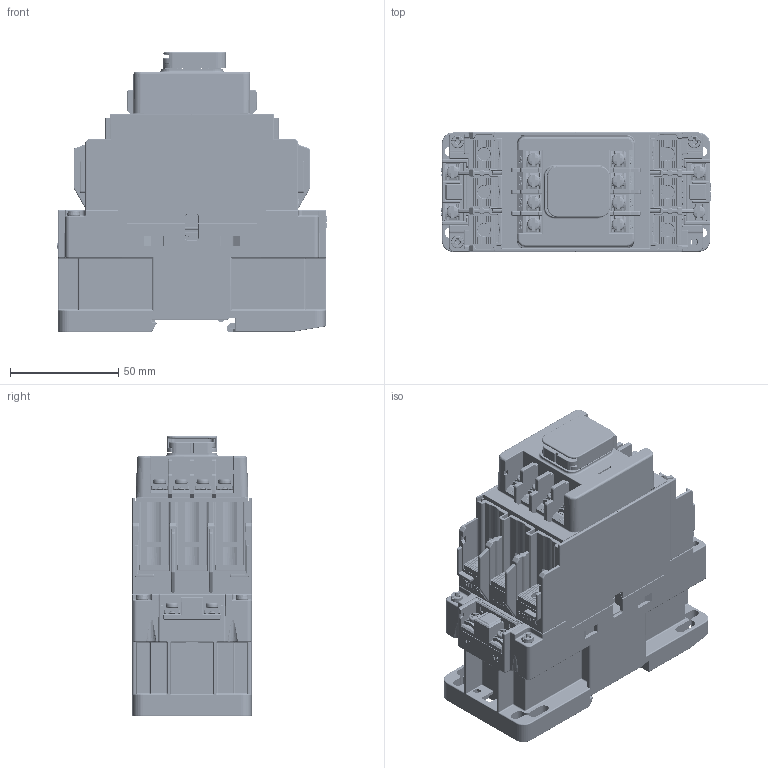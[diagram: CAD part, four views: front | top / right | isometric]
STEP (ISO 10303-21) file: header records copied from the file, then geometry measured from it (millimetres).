
FILE_DESCRIPTION(/* description */ (''),/* implementation_level */ '2;1');
FILE_NAME(/* name */ 'HGC65AF.stp',/* time_stamp */ '2017-09-21T13:49:04+09:00',/* author */ (''),/* organization */ (''),/* preprocessor_version */ 'ST-DEVELOPER v15',/* originating_system */ 'SIEMENS PLM Software NX 9.0',/* authorisation */ '');
FILE_SCHEMA (('CONFIG_CONTROL_DESIGN'));
Products named in the file (1): HGC65AF
Bounding box: 124.3 x 55 x 129.05 mm (x, y, z)
Volume: 471118.4 mm3; surface area: 226267.8 mm2
Topology: 61 solids, 75 shells, 16815 faces, 43153 edges, 26698 vertices
Faces by surface type: plane 8265, cylinder 5628, torus 1122, bspline 779, sphere 481, extrusion 430, cone 110
Full cylindrical faces by diameter (mm): 1.5 x2, 1.8 x6, 2 x10, 2.4 x4, 2.8 x3, 3 x4, 3.5 x4, 3.8 x4, 4.5 x4, 6 x6
Entity records: 568573 total; most frequent: CARTESIAN_POINT 167108, ORIENTED_EDGE 85038, DIRECTION 81925, EDGE_CURVE 42519, AXIS2_PLACEMENT_3D 28283, VERTEX_POINT 26645, VECTOR 25359, LINE 24929
